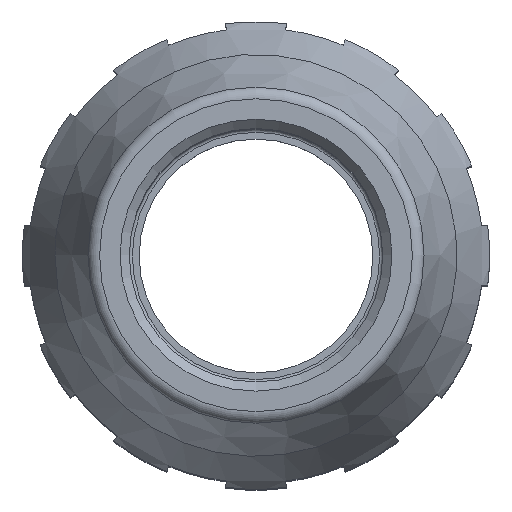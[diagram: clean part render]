
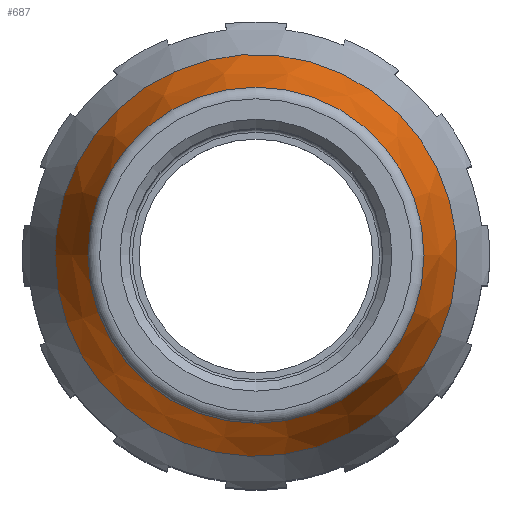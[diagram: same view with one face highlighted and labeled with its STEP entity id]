
A CAD part, top view. The second image highlights one B-rep face of the part: STEP entity #687.
In plain terms, the highlighted conical face has half-angle 19.587 degrees and reference radius 16.34 mm.
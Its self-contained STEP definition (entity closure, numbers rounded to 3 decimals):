
#687 = ADVANCED_FACE( '', ( #1557, #1558 ), #1559, .T. );
#1557 = FACE_OUTER_BOUND( '', #2916, .T. );
#1558 = FACE_BOUND( '', #2917, .T. );
#1559 = CONICAL_SURFACE( '', #2918, 16.34, 0.342 );
#2916 = EDGE_LOOP( '', ( #5352 ) );
#2917 = EDGE_LOOP( '', ( #5353 ) );
#2918 = AXIS2_PLACEMENT_3D( '', #5354, #5355, #5356 );
#5352 = ORIENTED_EDGE( '', *, *, #7758, .F. );
#5353 = ORIENTED_EDGE( '', *, *, #7759, .T. );
#5354 = CARTESIAN_POINT( '', ( 0., 0., 6.754 ) );
#5355 = DIRECTION( '', ( 0., 0., -1. ) );
#5356 = DIRECTION( '', ( -1., 0., 0. ) );
#7758 = EDGE_CURVE( '', #9274, #9274, #9275, .T. );
#7759 = EDGE_CURVE( '', #9276, #9276, #9277, .T. );
#9274 = VERTEX_POINT( '', #12047 );
#9275 = CIRCLE( '', #12048, 16.34 );
#9276 = VERTEX_POINT( '', #12049 );
#9277 = CIRCLE( '', #12050, 13.659 );
#12047 = CARTESIAN_POINT( '', ( -16.34, 0., 6.754 ) );
#12048 = AXIS2_PLACEMENT_3D( '', #13913, #13914, #13915 );
#12049 = CARTESIAN_POINT( '', ( -13.659, 0., 14.287 ) );
#12050 = AXIS2_PLACEMENT_3D( '', #13916, #13917, #13918 );
#13913 = CARTESIAN_POINT( '', ( 0., 0., 6.754 ) );
#13914 = DIRECTION( '', ( 0., 0., -1. ) );
#13915 = DIRECTION( '', ( -1., 0., 0. ) );
#13916 = CARTESIAN_POINT( '', ( 0., 0., 14.287 ) );
#13917 = DIRECTION( '', ( 0., 0., -1. ) );
#13918 = DIRECTION( '', ( -1., 0., 0. ) );
